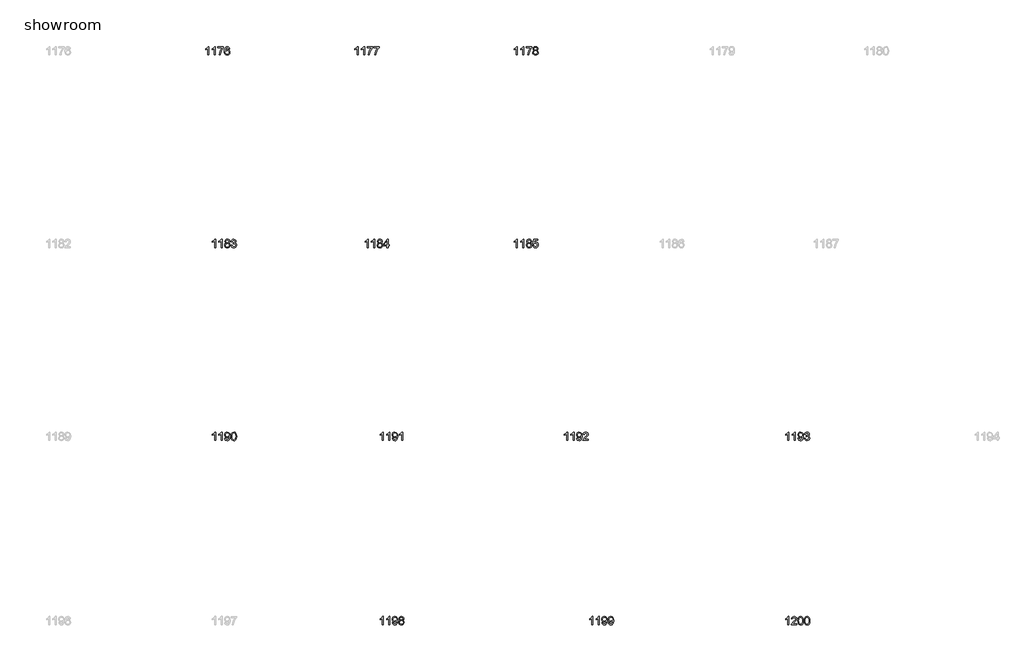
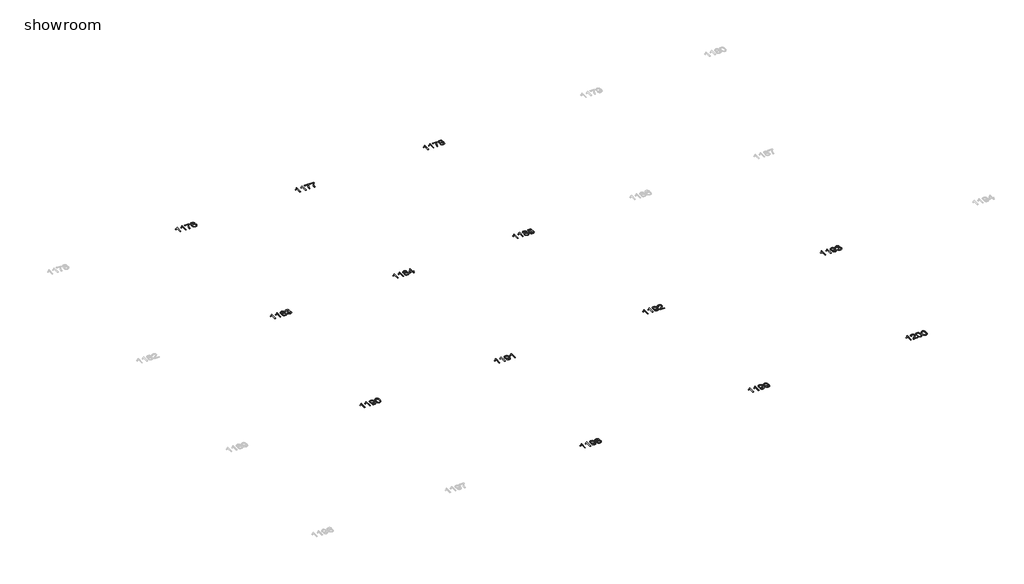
# One storey, part 2 of 5: 13 proxies.
"""IFC4 building model written with IfcOpenShell, lengths in millimetres."""

from ifc_helpers import new_model, si_unit, origin, origin_with_axes, place, context, project, spatial, polyline, outline, extrude, element, save

model = new_model("IFC4")

# Units and contexts
model_context = context("Model", 3, world=origin())
ifc_project = project(units=[si_unit("LENGTHUNIT", "METRE", prefix="MILLI")], contexts=[model_context])

# Site, building, storey
site = spatial("IfcSite", under=ifc_project)
building = spatial("IfcBuilding", under=site)
storey = spatial("IfcBuildingStorey", under=building, Name="showroom", Elevation=0.0)

# Proxies
placement = place(None, origin())
element("IfcBuildingElementProxy", 1, Name="100mm Arial", ObjectType="100mm Arial", at=placement, inside=storey, context=model_context, shape_type="SweptSolid", body=[
    extrude(outline(polyline([(190.3304099, -744.8979193), (177.7733711, -744.8979193), (177.7733711, -666.6126308), (165.8785199, -675.0861794), (152.6592936, -681.4260124), (152.6592936, -669.5556867), (171.0656561, -657.8079883), (182.237006, -644.4416092), (190.3304099, -644.4416092), (190.3304099, -744.8979193)])), origin_with_axes(), (0.0, 0.0, 1.0), 2.0),
    extrude(outline(polyline([(267.2422723, -744.8979193), (254.6852336, -744.8979193), (254.6852336, -666.6126308), (242.7903824, -675.0861794), (229.571156, -681.4260124), (229.571156, -669.5556867), (247.9775185, -657.8079883), (259.1488684, -644.4416092), (267.2422723, -644.4416092), (267.2422723, -744.8979193)])), origin_with_axes(), (0.0, 0.0, 1.0), 2.0),
    extrude(outline(polyline([(297.0652394, -658.5682778), (297.0652394, -646.011239), (362.9896929, -646.011239), (362.9896929, -656.1647821), (344.2890249, -683.1795833), (329.9784152, -717.6010753), (325.3185766, -744.8979193), (312.7615379, -744.8979193), (317.7524703, -716.5710057), (331.4499432, -684.5530094), (350.4326542, -658.5682778), (297.0652394, -658.5682778)])), origin_with_axes(), (0.0, 0.0, 1.0), 2.0),
    extrude(outline(polyline([(438.3319256, -671.1253166), (425.7748868, -672.6949464), (421.0169463, -662.2225723), (408.4353821, -656.9986479), (397.1046166, -660.0398058), (388.5329661, -671.4564104), (384.9645108, -693.8358984), (396.0377588, -683.8172454), (409.7597573, -680.5430956), (421.3603028, -682.7810444), (431.096913, -689.4948909), (437.7003948, -699.7526672), (439.9015554, -712.6224056), (435.7567516, -729.9496476), (424.3524097, -742.2123808), (407.8958218, -746.4675492), (393.6495916, -743.6471205), (382.3034977, -735.1858347), (374.8814784, -720.2498257), (372.407472, -698.0052277), (375.1543243, -672.9953834), (383.3948809, -655.895002), (394.6459386, -647.3049574), (409.220197, -644.4416092), (420.2382628, -646.2135741), (429.0612993, -651.529469), (435.2417168, -659.9723607), (438.3319256, -671.1253166)]), holes=[polyline([(384.9645108, -712.4262019), (387.8707786, -723.3032462), (395.5963005, -731.2004464), (406.9148032, -733.9105104), (415.2013451, -732.5064275), (421.7159221, -728.2941786), (425.937368, -721.6723027), (427.3445166, -713.0393385), (425.9557621, -704.7527966), (421.7894985, -698.4344233), (415.1645569, -694.4337066), (406.3997684, -693.1001344), (391.206242, -698.4344233), (386.5249436, -704.5995124), (384.9645108, -712.4262019)])]), origin_with_axes(), (0.0, 0.0, 1.0), 2.0),
])
element("IfcBuildingElementProxy", 2, Name="100mm Arial", ObjectType="100mm Arial", at=placement, inside=storey, context=model_context, shape_type="SweptSolid", body=[
    extrude(outline(polyline([(1970.3304099, -744.8979193), (1957.7733711, -744.8979193), (1957.7733711, -666.6126308), (1945.8785199, -675.0861794), (1932.6592936, -681.4260124), (1932.6592936, -669.5556867), (1951.0656561, -657.8079883), (1962.237006, -644.4416092), (1970.3304099, -644.4416092), (1970.3304099, -744.8979193)])), origin_with_axes(), (0.0, 0.0, 1.0), 2.0),
    extrude(outline(polyline([(2047.2422723, -744.8979193), (2034.6852336, -744.8979193), (2034.6852336, -666.6126308), (2022.7903824, -675.0861794), (2009.571156, -681.4260124), (2009.571156, -669.5556867), (2027.9775185, -657.8079883), (2039.1488684, -644.4416092), (2047.2422723, -644.4416092), (2047.2422723, -744.8979193)])), origin_with_axes(), (0.0, 0.0, 1.0), 2.0),
    extrude(outline(polyline([(2077.0652394, -658.5682778), (2077.0652394, -646.011239), (2142.9896929, -646.011239), (2142.9896929, -656.1647821), (2124.2890249, -683.1795833), (2109.9784152, -717.6010753), (2105.3185766, -744.8979193), (2092.7615379, -744.8979193), (2097.7524703, -716.5710057), (2111.4499432, -684.5530094), (2130.4326542, -658.5682778), (2077.0652394, -658.5682778)])), origin_with_axes(), (0.0, 0.0, 1.0), 2.0),
    extrude(outline(polyline([(2153.9771019, -658.5682778), (2153.9771019, -646.011239), (2219.9015554, -646.011239), (2219.9015554, -656.1647821), (2201.2008873, -683.1795833), (2186.8902777, -717.6010753), (2182.2304391, -744.8979193), (2169.6734003, -744.8979193), (2174.6643327, -716.5710057), (2188.3618057, -684.5530094), (2207.3445166, -658.5682778), (2153.9771019, -658.5682778)])), origin_with_axes(), (0.0, 0.0, 1.0), 2.0),
])
element("IfcBuildingElementProxy", 3, Name="100mm Arial", ObjectType="100mm Arial", at=placement, inside=storey, context=model_context, shape_type="SweptSolid", body=[
    extrude(outline(polyline([(3870.3304099, -744.8979193), (3857.7733711, -744.8979193), (3857.7733711, -666.6126308), (3845.8785199, -675.0861794), (3832.6592936, -681.4260124), (3832.6592936, -669.5556867), (3851.0656561, -657.8079883), (3862.237006, -644.4416092), (3870.3304099, -644.4416092), (3870.3304099, -744.8979193)])), origin_with_axes(), (0.0, 0.0, 1.0), 2.0),
    extrude(outline(polyline([(3947.2422723, -744.8979193), (3934.6852336, -744.8979193), (3934.6852336, -666.6126308), (3922.7903824, -675.0861794), (3909.571156, -681.4260124), (3909.571156, -669.5556867), (3927.9775185, -657.8079883), (3939.1488684, -644.4416092), (3947.2422723, -644.4416092), (3947.2422723, -744.8979193)])), origin_with_axes(), (0.0, 0.0, 1.0), 2.0),
    extrude(outline(polyline([(3977.0652394, -658.5682778), (3977.0652394, -646.011239), (4042.9896929, -646.011239), (4042.9896929, -656.1647821), (4024.2890249, -683.1795833), (4009.9784152, -717.6010753), (4005.3185766, -744.8979193), (3992.7615379, -744.8979193), (3997.7524703, -716.5710057), (4011.4499432, -684.5530094), (4030.4326542, -658.5682778), (3977.0652394, -658.5682778)])), origin_with_axes(), (0.0, 0.0, 1.0), 2.0),
    extrude(outline(polyline([(4072.2730998, -689.5684673), (4060.8319697, -681.769369), (4057.1163616, -669.6292631), (4059.1397125, -659.8129452), (4065.2097655, -651.7011472), (4074.6459386, -646.2564937), (4086.7676504, -644.4416092), (4098.9629385, -646.2994133), (4108.521739, -651.8728255), (4114.7021565, -660.1133822), (4116.7622957, -669.9726196), (4113.0957385, -681.8061572), (4101.9734395, -689.5684673), (4115.3275559, -699.415442), (4119.9015554, -715.6635634), (4117.6329498, -727.6687792), (4110.8271329, -737.5893304), (4100.3179705, -744.2479945), (4086.9393286, -746.4675492), (4073.5606867, -744.2387974), (4063.0515244, -737.5525422), (4056.2457075, -727.5369548), (4053.9771019, -715.3202069), (4058.7350423, -698.6919407), (4072.2730998, -689.5684673)]), holes=[polyline([(4066.5341406, -714.8787485), (4068.631068, -724.3333158), (4076.0500216, -731.4089128), (4087.0374305, -733.9105104), (4095.5845555, -732.5953323), (4101.997965, -728.6497979), (4107.3445166, -715.271156), (4101.8262867, -701.6349967), (4095.2657245, -697.5882947), (4086.6204976, -696.2393941), (4078.1929342, -697.5699006), (4071.8439041, -701.5614203), (4066.5341406, -714.8787485)]), polyline([(4069.6734003, -669.9971451), (4074.1247725, -679.8563826), (4087.0864814, -683.6823553), (4099.790673, -679.880908), (4104.2052569, -670.5612308), (4099.6435202, -660.9104598), (4086.9393286, -656.9986479), (4074.1983489, -660.8246207), (4069.6734003, -669.9971451)])]), origin_with_axes(), (0.0, 0.0, 1.0), 2.0),
])
element("IfcBuildingElementProxy", 4, Name="100mm Arial", ObjectType="100mm Arial", at=placement, inside=storey, context=model_context, shape_type="SweptSolid", body=[
    extrude(outline(polyline([(270.3304099, -3044.8979193), (257.7733711, -3044.8979193), (257.7733711, -2966.6126308), (245.8785199, -2975.0861794), (232.6592936, -2981.4260124), (232.6592936, -2969.5556867), (251.0656561, -2957.8079883), (262.237006, -2944.4416092), (270.3304099, -2944.4416092), (270.3304099, -3044.8979193)])), origin_with_axes(), (0.0, 0.0, 1.0), 2.0),
    extrude(outline(polyline([(347.2422723, -3044.8979193), (334.6852336, -3044.8979193), (334.6852336, -2966.6126308), (322.7903824, -2975.0861794), (309.571156, -2981.4260124), (309.571156, -2969.5556867), (327.9775185, -2957.8079883), (339.1488684, -2944.4416092), (347.2422723, -2944.4416092), (347.2422723, -3044.8979193)])), origin_with_axes(), (0.0, 0.0, 1.0), 2.0),
    extrude(outline(polyline([(395.3612373, -2989.5684673), (383.9201073, -2981.769369), (380.2044991, -2969.6292631), (382.2278501, -2959.8129452), (388.297903, -2951.7011472), (397.7340762, -2946.2564937), (409.8557879, -2944.4416092), (422.0510761, -2946.2994133), (431.6098766, -2951.8728255), (437.7902941, -2960.1133822), (439.8504333, -2969.9726196), (436.183876, -2981.8061572), (425.061577, -2989.5684673), (438.4156935, -2999.415442), (442.9896929, -3015.6635634), (440.7210873, -3027.6687792), (433.9152704, -3037.5893304), (423.4061081, -3044.2479945), (410.0274662, -3046.4675492), (396.6488243, -3044.2387974), (386.139662, -3037.5525422), (379.333845, -3027.5369548), (377.0652394, -3015.3202069), (381.8231799, -2998.6919407), (395.3612373, -2989.5684673)]), holes=[polyline([(389.6222782, -3014.8787485), (391.7192056, -3024.3333158), (399.1381591, -3031.4089128), (410.125568, -3033.9105104), (418.6726931, -3032.5953323), (425.0861025, -3028.6497979), (430.4326542, -3015.271156), (424.9144242, -3001.6349967), (418.353862, -2997.5882947), (409.7086351, -2996.2393941), (401.2810717, -2997.5699006), (394.9320416, -3001.5614203), (389.6222782, -3014.8787485)]), polyline([(392.7615379, -2969.9971451), (397.21291, -2979.8563826), (410.174619, -2983.6823553), (422.8788105, -2979.880908), (427.2933945, -2970.5612308), (422.7316577, -2960.9104598), (410.0274662, -2956.9986479), (397.2864864, -2960.8246207), (392.7615379, -2969.9971451)])]), origin_with_axes(), (0.0, 0.0, 1.0), 2.0),
    extrude(outline(polyline([(453.9771019, -3018.2142119), (466.5341406, -3016.6445821), (473.4625849, -3029.8638085), (486.4242938, -3033.9105104), (495.0327325, -3032.5186902), (501.6791339, -3028.3432295), (507.3445166, -3014.5599175), (501.7281848, -3001.573683), (487.4543634, -2996.4355978), (478.649721, -2997.8090239), (480.0476726, -2985.2519852), (482.0587608, -2985.399138), (496.3080568, -2981.7938944), (501.0537345, -2977.2198949), (502.6356271, -2970.7083836), (498.0493649, -2960.8859344), (486.2280901, -2956.9986479), (474.2596625, -2960.9227226), (468.1037705, -2972.6949464), (455.5467317, -2971.1253166), (459.2439458, -2959.8497334), (465.8229021, -2951.4313671), (474.8237483, -2946.1890487), (485.7866317, -2944.4416092), (500.9311072, -2947.8874372), (511.5261086, -2957.3052163), (515.1926659, -2969.9726196), (511.7100496, -2981.5486398), (501.4093538, -2989.8627728), (515.094564, -2998.4466861), (519.9015554, -3014.7806467), (517.4980597, -3027.0188544), (510.2875726, -3037.2459738), (499.4043969, -3044.1621553), (485.9828354, -3046.4675492), (473.8427296, -3044.4993805), (463.9589667, -3038.5948745), (457.0857047, -3029.5633715), (453.9771019, -3018.2142119)])), origin_with_axes(), (0.0, 0.0, 1.0), 2.0),
])
element("IfcBuildingElementProxy", 5, Name="100mm Arial", ObjectType="100mm Arial", at=placement, inside=storey, context=model_context, shape_type="SweptSolid", body=[
    extrude(outline(polyline([(2090.3304099, -3044.8979193), (2077.7733711, -3044.8979193), (2077.7733711, -2966.6126308), (2065.8785199, -2975.0861794), (2052.6592936, -2981.4260124), (2052.6592936, -2969.5556867), (2071.0656561, -2957.8079883), (2082.237006, -2944.4416092), (2090.3304099, -2944.4416092), (2090.3304099, -3044.8979193)])), origin_with_axes(), (0.0, 0.0, 1.0), 2.0),
    extrude(outline(polyline([(2167.2422723, -3044.8979193), (2154.6852336, -3044.8979193), (2154.6852336, -2966.6126308), (2142.7903824, -2975.0861794), (2129.571156, -2981.4260124), (2129.571156, -2969.5556867), (2147.9775185, -2957.8079883), (2159.1488684, -2944.4416092), (2167.2422723, -2944.4416092), (2167.2422723, -3044.8979193)])), origin_with_axes(), (0.0, 0.0, 1.0), 2.0),
    extrude(outline(polyline([(2215.3612373, -2989.5684673), (2203.9201073, -2981.769369), (2200.2044991, -2969.6292631), (2202.2278501, -2959.8129452), (2208.297903, -2951.7011472), (2217.7340762, -2946.2564937), (2229.8557879, -2944.4416092), (2242.0510761, -2946.2994133), (2251.6098766, -2951.8728255), (2257.7902941, -2960.1133822), (2259.8504333, -2969.9726196), (2256.183876, -2981.8061572), (2245.061577, -2989.5684673), (2258.4156935, -2999.415442), (2262.9896929, -3015.6635634), (2260.7210873, -3027.6687792), (2253.9152704, -3037.5893304), (2243.4061081, -3044.2479945), (2230.0274662, -3046.4675492), (2216.6488243, -3044.2387974), (2206.139662, -3037.5525422), (2199.333845, -3027.5369548), (2197.0652394, -3015.3202069), (2201.8231799, -2998.6919407), (2215.3612373, -2989.5684673)]), holes=[polyline([(2209.6222782, -3014.8787485), (2211.7192056, -3024.3333158), (2219.1381591, -3031.4089128), (2230.125568, -3033.9105104), (2238.6726931, -3032.5953323), (2245.0861025, -3028.6497979), (2250.4326542, -3015.271156), (2244.9144242, -3001.6349967), (2238.353862, -2997.5882947), (2229.7086351, -2996.2393941), (2221.2810717, -2997.5699006), (2214.9320416, -3001.5614203), (2209.6222782, -3014.8787485)]), polyline([(2212.7615379, -2969.9971451), (2217.21291, -2979.8563826), (2230.174619, -2983.6823553), (2242.8788105, -2979.880908), (2247.2933945, -2970.5612308), (2242.7316577, -2960.9104598), (2230.0274662, -2956.9986479), (2217.2864864, -2960.8246207), (2212.7615379, -2969.9971451)])]), origin_with_axes(), (0.0, 0.0, 1.0), 2.0),
    extrude(outline(polyline([(2314.7874779, -3044.8979193), (2314.7874779, -3021.3534716), (2269.2682123, -3021.3534716), (2269.2682123, -3008.7964329), (2317.9267376, -2946.011239), (2327.3445166, -2946.011239), (2327.3445166, -3008.7964329), (2339.9015554, -3008.7964329), (2339.9015554, -3021.3534716), (2327.3445166, -3021.3534716), (2327.3445166, -3044.8979193), (2314.7874779, -3044.8979193)]), holes=[polyline([(2314.7874779, -3008.7964329), (2314.7874779, -2969.9971451), (2284.7192561, -3008.7964329), (2314.7874779, -3008.7964329)])]), origin_with_axes(), (0.0, 0.0, 1.0), 2.0),
])
element("IfcBuildingElementProxy", 6, Name="100mm Arial", ObjectType="100mm Arial", at=placement, inside=storey, context=model_context, shape_type="SweptSolid", body=[
    extrude(outline(polyline([(3870.3304099, -3044.8979193), (3857.7733711, -3044.8979193), (3857.7733711, -2966.6126308), (3845.8785199, -2975.0861794), (3832.6592936, -2981.4260124), (3832.6592936, -2969.5556867), (3851.0656561, -2957.8079883), (3862.237006, -2944.4416092), (3870.3304099, -2944.4416092), (3870.3304099, -3044.8979193)])), origin_with_axes(), (0.0, 0.0, 1.0), 2.0),
    extrude(outline(polyline([(3947.2422723, -3044.8979193), (3934.6852336, -3044.8979193), (3934.6852336, -2966.6126308), (3922.7903824, -2975.0861794), (3909.571156, -2981.4260124), (3909.571156, -2969.5556867), (3927.9775185, -2957.8079883), (3939.1488684, -2944.4416092), (3947.2422723, -2944.4416092), (3947.2422723, -3044.8979193)])), origin_with_axes(), (0.0, 0.0, 1.0), 2.0),
    extrude(outline(polyline([(3995.3612373, -2989.5684673), (3983.9201073, -2981.769369), (3980.2044991, -2969.6292631), (3982.2278501, -2959.8129452), (3988.297903, -2951.7011472), (3997.7340762, -2946.2564937), (4009.8557879, -2944.4416092), (4022.0510761, -2946.2994133), (4031.6098766, -2951.8728255), (4037.7902941, -2960.1133822), (4039.8504333, -2969.9726196), (4036.183876, -2981.8061572), (4025.061577, -2989.5684673), (4038.4156935, -2999.415442), (4042.9896929, -3015.6635634), (4040.7210873, -3027.6687792), (4033.9152704, -3037.5893304), (4023.4061081, -3044.2479945), (4010.0274662, -3046.4675492), (3996.6488243, -3044.2387974), (3986.139662, -3037.5525422), (3979.333845, -3027.5369548), (3977.0652394, -3015.3202069), (3981.8231799, -2998.6919407), (3995.3612373, -2989.5684673)]), holes=[polyline([(3989.6222782, -3014.8787485), (3991.7192056, -3024.3333158), (3999.1381591, -3031.4089128), (4010.125568, -3033.9105104), (4018.6726931, -3032.5953323), (4025.0861025, -3028.6497979), (4030.4326542, -3015.271156), (4024.9144242, -3001.6349967), (4018.353862, -2997.5882947), (4009.7086351, -2996.2393941), (4001.2810717, -2997.5699006), (3994.9320416, -3001.5614203), (3989.6222782, -3014.8787485)]), polyline([(3992.7615379, -2969.9971451), (3997.21291, -2979.8563826), (4010.174619, -2983.6823553), (4022.8788105, -2979.880908), (4027.2933945, -2970.5612308), (4022.7316577, -2960.9104598), (4010.0274662, -2956.9986479), (3997.2864864, -2960.8246207), (3992.7615379, -2969.9971451)])]), origin_with_axes(), (0.0, 0.0, 1.0), 2.0),
    extrude(outline(polyline([(4053.9771019, -3018.2142119), (4066.5341406, -3016.6445821), (4072.861711, -3029.5817656), (4085.9828354, -3033.9105104), (4094.9836816, -3032.4052599), (4101.7281848, -3027.8895084), (4105.9404337, -3020.8844221), (4107.3445166, -3011.9111671), (4102.0838041, -2996.9996836), (4095.4772566, -2992.8977993), (4086.1790392, -2991.5305046), (4075.1548421, -2993.7132711), (4068.1037705, -2999.3786538), (4055.5467317, -2997.8090239), (4066.5341406, -2946.011239), (4115.1926659, -2946.011239), (4115.1926659, -2958.5682778), (4076.6876837, -2958.5682778), (4071.3166066, -2986.2330038), (4080.2867959, -2980.7883503), (4089.6861809, -2978.9734658), (4101.4185508, -2981.2236773), (4111.1582267, -2987.9743119), (4117.7157232, -2998.2627451), (4119.9015554, -3011.1263522), (4117.9333867, -3023.6833909), (4112.0288807, -3034.4255452), (4100.7226407, -3043.4570482), (4085.9337845, -3046.4675492), (4073.6005406, -3044.533103), (4063.7750257, -3038.7297645), (4057.0397195, -3029.7319841), (4053.9771019, -3018.2142119)])), origin_with_axes(), (0.0, 0.0, 1.0), 2.0),
])
element("IfcBuildingElementProxy", 7, Name="100mm Arial", ObjectType="100mm Arial", at=placement, inside=storey, context=model_context, shape_type="SweptSolid", body=[
    extrude(outline(polyline([(270.3304099, -5344.8979193), (257.7733711, -5344.8979193), (257.7733711, -5266.6126308), (245.8785199, -5275.0861794), (232.6592936, -5281.4260124), (232.6592936, -5269.5556867), (251.0656561, -5257.8079883), (262.237006, -5244.4416092), (270.3304099, -5244.4416092), (270.3304099, -5344.8979193)])), origin_with_axes(), (0.0, 0.0, 1.0), 2.0),
    extrude(outline(polyline([(347.2422723, -5344.8979193), (334.6852336, -5344.8979193), (334.6852336, -5266.6126308), (322.7903824, -5275.0861794), (309.571156, -5281.4260124), (309.571156, -5269.5556867), (327.9775185, -5257.8079883), (339.1488684, -5244.4416092), (347.2422723, -5244.4416092), (347.2422723, -5344.8979193)])), origin_with_axes(), (0.0, 0.0, 1.0), 2.0),
    extrude(outline(polyline([(378.6348693, -5319.7838418), (391.191908, -5318.2142119), (396.8327653, -5330.1949023), (407.5258686, -5333.9105104), (417.6916744, -5331.5192774), (424.5833305, -5325.1303935), (428.6913461, -5314.2165609), (430.5062306, -5299.6484339), (430.4326542, -5297.1958873), (420.3894757, -5306.7117682), (406.6184264, -5310.3660627), (395.1680993, -5308.1342453), (385.6368899, -5301.438793), (379.208152, -5291.0951775), (377.0652394, -5277.9188707), (379.3123853, -5264.3072369), (386.0538228, -5253.6386591), (396.1797747, -5246.7408716), (408.5804637, -5244.4416092), (426.4717914, -5249.690059), (438.7835755, -5264.6505934), (442.9896929, -5292.7567779), (438.7958382, -5323.2541953), (433.5811109, -5333.2452571), (426.3246386, -5340.5323863), (417.3391208, -5344.9837585), (406.9372574, -5346.4675492), (396.2012345, -5344.717044), (387.6357154, -5339.4655285), (381.6453702, -5331.0440965), (378.6348693, -5319.7838418)]), holes=[polyline([(430.4326542, -5277.6245651), (429.0776222, -5269.1142283), (425.0125261, -5262.5659288), (418.7033499, -5258.3904682), (410.6160774, -5256.9986479), (402.2283679, -5258.4977671), (395.5083901, -5262.9951245), (391.0938062, -5269.8775835), (389.6222782, -5278.5320074), (391.0140984, -5286.2912518), (395.189559, -5292.4502095), (401.7439899, -5296.4693203), (410.2727208, -5297.8090239), (424.7550087, -5292.4502095), (429.0132428, -5286.0643912), (430.4326542, -5277.6245651)])]), origin_with_axes(), (0.0, 0.0, 1.0), 2.0),
    extrude(outline(polyline([(453.9771019, -5295.4791046), (457.6681846, -5266.5758426), (468.631068, -5249.9107882), (486.9393286, -5244.4416092), (501.6055575, -5247.6789707), (511.7345751, -5257.0109107), (517.620687, -5271.8733433), (519.9015554, -5295.4791046), (516.2472609, -5324.2597394), (505.3211657, -5340.961582), (497.089806, -5345.0910574), (486.9393286, -5346.4675492), (473.8917805, -5344.0763162), (463.9834921, -5336.9026173), (456.4786994, -5319.9126005), (453.9771019, -5295.4791046)]), holes=[polyline([(466.5341406, -5295.4545792), (468.0056686, -5315.2067766), (472.4202526, -5326.6387096), (478.9930775, -5332.0925602), (486.9393286, -5333.9105104), (494.8855797, -5332.0864288), (501.4584047, -5326.6141842), (505.8729887, -5315.1761198), (507.3445166, -5295.4545792), (505.9220396, -5276.1469058), (501.6546084, -5264.626068), (495.0940462, -5258.905503), (486.7921758, -5256.9986479), (478.9317639, -5258.6786424), (472.6164563, -5263.7186257), (468.0547195, -5275.9568334), (466.5341406, -5295.4545792)])]), origin_with_axes(), (0.0, 0.0, 1.0), 2.0),
])
element("IfcBuildingElementProxy", 8, Name="100mm Arial", ObjectType="100mm Arial", at=placement, inside=storey, context=model_context, shape_type="SweptSolid", body=[
    extrude(outline(polyline([(2270.3304099, -5344.8979193), (2257.7733711, -5344.8979193), (2257.7733711, -5266.6126308), (2245.8785199, -5275.0861794), (2232.6592936, -5281.4260124), (2232.6592936, -5269.5556867), (2251.0656561, -5257.8079883), (2262.237006, -5244.4416092), (2270.3304099, -5244.4416092), (2270.3304099, -5344.8979193)])), origin_with_axes(), (0.0, 0.0, 1.0), 2.0),
    extrude(outline(polyline([(2347.2422723, -5344.8979193), (2334.6852336, -5344.8979193), (2334.6852336, -5266.6126308), (2322.7903824, -5275.0861794), (2309.571156, -5281.4260124), (2309.571156, -5269.5556867), (2327.9775185, -5257.8079883), (2339.1488684, -5244.4416092), (2347.2422723, -5244.4416092), (2347.2422723, -5344.8979193)])), origin_with_axes(), (0.0, 0.0, 1.0), 2.0),
    extrude(outline(polyline([(2378.6348693, -5319.7838418), (2391.191908, -5318.2142119), (2396.8327653, -5330.1949023), (2407.5258686, -5333.9105104), (2417.6916744, -5331.5192774), (2424.5833305, -5325.1303935), (2428.6913461, -5314.2165609), (2430.5062306, -5299.6484339), (2430.4326542, -5297.1958873), (2420.3894757, -5306.7117682), (2406.6184264, -5310.3660627), (2395.1680993, -5308.1342453), (2385.6368899, -5301.438793), (2379.208152, -5291.0951775), (2377.0652394, -5277.9188707), (2379.3123853, -5264.3072369), (2386.0538228, -5253.6386591), (2396.1797747, -5246.7408716), (2408.5804637, -5244.4416092), (2426.4717914, -5249.690059), (2438.7835755, -5264.6505934), (2442.9896929, -5292.7567779), (2438.7958382, -5323.2541953), (2433.5811109, -5333.2452571), (2426.3246386, -5340.5323863), (2417.3391208, -5344.9837585), (2406.9372574, -5346.4675492), (2396.2012345, -5344.717044), (2387.6357154, -5339.4655285), (2381.6453702, -5331.0440965), (2378.6348693, -5319.7838418)]), holes=[polyline([(2430.4326542, -5277.6245651), (2429.0776222, -5269.1142283), (2425.0125261, -5262.5659288), (2418.7033499, -5258.3904682), (2410.6160774, -5256.9986479), (2402.2283679, -5258.4977671), (2395.5083901, -5262.9951245), (2391.0938062, -5269.8775835), (2389.6222782, -5278.5320074), (2391.0140984, -5286.2912518), (2395.189559, -5292.4502095), (2401.7439899, -5296.4693203), (2410.2727208, -5297.8090239), (2424.7550087, -5292.4502095), (2429.0132428, -5286.0643912), (2430.4326542, -5277.6245651)])]), origin_with_axes(), (0.0, 0.0, 1.0), 2.0),
    extrude(outline(polyline([(2501.0659973, -5344.8979193), (2488.5089585, -5344.8979193), (2488.5089585, -5266.6126308), (2476.6141073, -5275.0861794), (2463.3948809, -5281.4260124), (2463.3948809, -5269.5556867), (2481.8012434, -5257.8079883), (2492.9725934, -5244.4416092), (2501.0659973, -5244.4416092), (2501.0659973, -5344.8979193)])), origin_with_axes(), (0.0, 0.0, 1.0), 2.0),
])
element("IfcBuildingElementProxy", 9, Name="100mm Arial", ObjectType="100mm Arial", at=placement, inside=storey, context=model_context, shape_type="SweptSolid", body=[
    extrude(outline(polyline([(4470.3304099, -5344.8979193), (4457.7733711, -5344.8979193), (4457.7733711, -5266.6126308), (4445.8785199, -5275.0861794), (4432.6592936, -5281.4260124), (4432.6592936, -5269.5556867), (4451.0656561, -5257.8079883), (4462.237006, -5244.4416092), (4470.3304099, -5244.4416092), (4470.3304099, -5344.8979193)])), origin_with_axes(), (0.0, 0.0, 1.0), 2.0),
    extrude(outline(polyline([(4547.2422723, -5344.8979193), (4534.6852336, -5344.8979193), (4534.6852336, -5266.6126308), (4522.7903824, -5275.0861794), (4509.571156, -5281.4260124), (4509.571156, -5269.5556867), (4527.9775185, -5257.8079883), (4539.1488684, -5244.4416092), (4547.2422723, -5244.4416092), (4547.2422723, -5344.8979193)])), origin_with_axes(), (0.0, 0.0, 1.0), 2.0),
    extrude(outline(polyline([(4578.6348693, -5319.7838418), (4591.191908, -5318.2142119), (4596.8327653, -5330.1949023), (4607.5258686, -5333.9105104), (4617.6916744, -5331.5192774), (4624.5833305, -5325.1303935), (4628.6913461, -5314.2165609), (4630.5062306, -5299.6484339), (4630.4326542, -5297.1958873), (4620.3894757, -5306.7117682), (4606.6184264, -5310.3660627), (4595.1680993, -5308.1342453), (4585.6368899, -5301.438793), (4579.208152, -5291.0951775), (4577.0652394, -5277.9188707), (4579.3123853, -5264.3072369), (4586.0538228, -5253.6386591), (4596.1797747, -5246.7408716), (4608.5804637, -5244.4416092), (4626.4717914, -5249.690059), (4638.7835755, -5264.6505934), (4642.9896929, -5292.7567779), (4638.7958382, -5323.2541953), (4633.5811109, -5333.2452571), (4626.3246386, -5340.5323863), (4617.3391208, -5344.9837585), (4606.9372574, -5346.4675492), (4596.2012345, -5344.717044), (4587.6357154, -5339.4655285), (4581.6453702, -5331.0440965), (4578.6348693, -5319.7838418)]), holes=[polyline([(4630.4326542, -5277.6245651), (4629.0776222, -5269.1142283), (4625.0125261, -5262.5659288), (4618.7033499, -5258.3904682), (4610.6160774, -5256.9986479), (4602.2283679, -5258.4977671), (4595.5083901, -5262.9951245), (4591.0938062, -5269.8775835), (4589.6222782, -5278.5320074), (4591.0140984, -5286.2912518), (4595.189559, -5292.4502095), (4601.7439899, -5296.4693203), (4610.2727208, -5297.8090239), (4624.7550087, -5292.4502095), (4629.0132428, -5286.0643912), (4630.4326542, -5277.6245651)])]), origin_with_axes(), (0.0, 0.0, 1.0), 2.0),
    extrude(outline(polyline([(4718.3319256, -5332.3408806), (4718.3319256, -5344.8979193), (4652.407472, -5344.8979193), (4653.7563727, -5336.2404297), (4661.3837927, -5322.9108388), (4677.1046166, -5308.3549745), (4698.7851289, -5287.4347517), (4704.2052569, -5273.2099812), (4699.0916972, -5261.6952748), (4685.7375808, -5256.9986479), (4671.8193786, -5261.5849102), (4666.5341406, -5274.2645763), (4653.9771019, -5272.6949464), (4657.0213254, -5260.5487092), (4663.6033474, -5251.6766218), (4673.3798114, -5246.2503623), (4686.0073609, -5244.4416092), (4698.7268809, -5246.4526974), (4708.4849508, -5252.4859621), (4714.6929595, -5261.499071), (4716.7622957, -5272.4496917), (4714.5304783, -5284.3568057), (4707.1115247, -5296.6685898), (4689.1220951, -5313.8732044), (4674.6765955, -5325.9519966), (4669.0112127, -5332.3408806), (4718.3319256, -5332.3408806)])), origin_with_axes(), (0.0, 0.0, 1.0), 2.0),
])
element("IfcBuildingElementProxy", 10, Name="100mm Arial", ObjectType="100mm Arial", at=placement, inside=storey, context=model_context, shape_type="SweptSolid", body=[
    extrude(outline(polyline([(7110.3304099, -5344.8979193), (7097.7733711, -5344.8979193), (7097.7733711, -5266.6126308), (7085.8785199, -5275.0861794), (7072.6592936, -5281.4260124), (7072.6592936, -5269.5556867), (7091.0656561, -5257.8079883), (7102.237006, -5244.4416092), (7110.3304099, -5244.4416092), (7110.3304099, -5344.8979193)])), origin_with_axes(), (0.0, 0.0, 1.0), 2.0),
    extrude(outline(polyline([(7187.2422723, -5344.8979193), (7174.6852336, -5344.8979193), (7174.6852336, -5266.6126308), (7162.7903824, -5275.0861794), (7149.571156, -5281.4260124), (7149.571156, -5269.5556867), (7167.9775185, -5257.8079883), (7179.1488684, -5244.4416092), (7187.2422723, -5244.4416092), (7187.2422723, -5344.8979193)])), origin_with_axes(), (0.0, 0.0, 1.0), 2.0),
    extrude(outline(polyline([(7218.6348693, -5319.7838418), (7231.191908, -5318.2142119), (7236.8327653, -5330.1949023), (7247.5258686, -5333.9105104), (7257.6916744, -5331.5192774), (7264.5833305, -5325.1303935), (7268.6913461, -5314.2165609), (7270.5062306, -5299.6484339), (7270.4326542, -5297.1958873), (7260.3894757, -5306.7117682), (7246.6184264, -5310.3660627), (7235.1680993, -5308.1342453), (7225.6368899, -5301.438793), (7219.208152, -5291.0951775), (7217.0652394, -5277.9188707), (7219.3123853, -5264.3072369), (7226.0538228, -5253.6386591), (7236.1797747, -5246.7408716), (7248.5804637, -5244.4416092), (7266.4717914, -5249.690059), (7278.7835755, -5264.6505934), (7282.9896929, -5292.7567779), (7278.7958382, -5323.2541953), (7273.5811109, -5333.2452571), (7266.3246386, -5340.5323863), (7257.3391208, -5344.9837585), (7246.9372574, -5346.4675492), (7236.2012345, -5344.717044), (7227.6357154, -5339.4655285), (7221.6453702, -5331.0440965), (7218.6348693, -5319.7838418)]), holes=[polyline([(7270.4326542, -5277.6245651), (7269.0776222, -5269.1142283), (7265.0125261, -5262.5659288), (7258.7033499, -5258.3904682), (7250.6160774, -5256.9986479), (7242.2283679, -5258.4977671), (7235.5083901, -5262.9951245), (7231.0938062, -5269.8775835), (7229.6222782, -5278.5320074), (7231.0140984, -5286.2912518), (7235.189559, -5292.4502095), (7241.7439899, -5296.4693203), (7250.2727208, -5297.8090239), (7264.7550087, -5292.4502095), (7269.0132428, -5286.0643912), (7270.4326542, -5277.6245651)])]), origin_with_axes(), (0.0, 0.0, 1.0), 2.0),
    extrude(outline(polyline([(7293.9771019, -5318.2142119), (7306.5341406, -5316.6445821), (7313.4625849, -5329.8638085), (7326.4242938, -5333.9105104), (7335.0327325, -5332.5186902), (7341.6791339, -5328.3432295), (7347.3445166, -5314.5599175), (7341.7281848, -5301.573683), (7327.4543634, -5296.4355978), (7318.649721, -5297.8090239), (7320.0476726, -5285.2519852), (7322.0587608, -5285.399138), (7336.3080568, -5281.7938944), (7341.0537345, -5277.2198949), (7342.6356271, -5270.7083836), (7338.0493649, -5260.8859344), (7326.2280901, -5256.9986479), (7314.2596625, -5260.9227226), (7308.1037705, -5272.6949464), (7295.5467317, -5271.1253166), (7299.2439458, -5259.8497334), (7305.8229021, -5251.4313671), (7314.8237483, -5246.1890487), (7325.7866317, -5244.4416092), (7340.9311072, -5247.8874372), (7351.5261086, -5257.3052163), (7355.1926659, -5269.9726196), (7351.7100496, -5281.5486398), (7341.4093538, -5289.8627728), (7355.094564, -5298.4466861), (7359.9015554, -5314.7806467), (7357.4980597, -5327.0188544), (7350.2875726, -5337.2459738), (7339.4043969, -5344.1621553), (7325.9828354, -5346.4675492), (7313.8427296, -5344.4993805), (7303.9589667, -5338.5948745), (7297.0857047, -5329.5633715), (7293.9771019, -5318.2142119)])), origin_with_axes(), (0.0, 0.0, 1.0), 2.0),
])
element("IfcBuildingElementProxy", 11, Name="100mm Arial", ObjectType="100mm Arial", at=placement, inside=storey, context=model_context, shape_type="SweptSolid", body=[
    extrude(outline(polyline([(2270.3304099, -7544.8979193), (2257.7733711, -7544.8979193), (2257.7733711, -7466.6126308), (2245.8785199, -7475.0861794), (2232.6592936, -7481.4260124), (2232.6592936, -7469.5556867), (2251.0656561, -7457.8079883), (2262.237006, -7444.4416092), (2270.3304099, -7444.4416092), (2270.3304099, -7544.8979193)])), origin_with_axes(), (0.0, 0.0, 1.0), 2.0),
    extrude(outline(polyline([(2347.2422723, -7544.8979193), (2334.6852336, -7544.8979193), (2334.6852336, -7466.6126308), (2322.7903824, -7475.0861794), (2309.571156, -7481.4260124), (2309.571156, -7469.5556867), (2327.9775185, -7457.8079883), (2339.1488684, -7444.4416092), (2347.2422723, -7444.4416092), (2347.2422723, -7544.8979193)])), origin_with_axes(), (0.0, 0.0, 1.0), 2.0),
    extrude(outline(polyline([(2378.6348693, -7519.7838418), (2391.191908, -7518.2142119), (2396.8327653, -7530.1949023), (2407.5258686, -7533.9105104), (2417.6916744, -7531.5192774), (2424.5833305, -7525.1303935), (2428.6913461, -7514.2165609), (2430.5062306, -7499.6484339), (2430.4326542, -7497.1958873), (2420.3894757, -7506.7117682), (2406.6184264, -7510.3660627), (2395.1680993, -7508.1342453), (2385.6368899, -7501.438793), (2379.208152, -7491.0951775), (2377.0652394, -7477.9188707), (2379.3123853, -7464.3072369), (2386.0538228, -7453.6386591), (2396.1797747, -7446.7408716), (2408.5804637, -7444.4416092), (2426.4717914, -7449.690059), (2438.7835755, -7464.6505934), (2442.9896929, -7492.7567779), (2438.7958382, -7523.2541953), (2433.5811109, -7533.2452571), (2426.3246386, -7540.5323863), (2417.3391208, -7544.9837585), (2406.9372574, -7546.4675492), (2396.2012345, -7544.717044), (2387.6357154, -7539.4655285), (2381.6453702, -7531.0440965), (2378.6348693, -7519.7838418)]), holes=[polyline([(2430.4326542, -7477.6245651), (2429.0776222, -7469.1142283), (2425.0125261, -7462.5659288), (2418.7033499, -7458.3904682), (2410.6160774, -7456.9986479), (2402.2283679, -7458.4977671), (2395.5083901, -7462.9951245), (2391.0938062, -7469.8775835), (2389.6222782, -7478.5320074), (2391.0140984, -7486.2912518), (2395.189559, -7492.4502095), (2401.7439899, -7496.4693203), (2410.2727208, -7497.8090239), (2424.7550087, -7492.4502095), (2429.0132428, -7486.0643912), (2430.4326542, -7477.6245651)])]), origin_with_axes(), (0.0, 0.0, 1.0), 2.0),
    extrude(outline(polyline([(2472.2730998, -7489.5684673), (2460.8319697, -7481.769369), (2457.1163616, -7469.6292631), (2459.1397125, -7459.8129452), (2465.2097655, -7451.7011472), (2474.6459386, -7446.2564937), (2486.7676504, -7444.4416092), (2498.9629385, -7446.2994133), (2508.521739, -7451.8728255), (2514.7021565, -7460.1133822), (2516.7622957, -7469.9726196), (2513.0957385, -7481.8061572), (2501.9734395, -7489.5684673), (2515.3275559, -7499.415442), (2519.9015554, -7515.6635634), (2517.6329498, -7527.6687792), (2510.8271329, -7537.5893304), (2500.3179705, -7544.2479945), (2486.9393286, -7546.4675492), (2473.5606867, -7544.2387974), (2463.0515244, -7537.5525422), (2456.2457075, -7527.5369548), (2453.9771019, -7515.3202069), (2458.7350423, -7498.6919407), (2472.2730998, -7489.5684673)]), holes=[polyline([(2466.5341406, -7514.8787485), (2468.631068, -7524.3333158), (2476.0500216, -7531.4089128), (2487.0374305, -7533.9105104), (2495.5845555, -7532.5953323), (2501.997965, -7528.6497979), (2507.3445166, -7515.271156), (2501.8262867, -7501.6349967), (2495.2657245, -7497.5882947), (2486.6204976, -7496.2393941), (2478.1929342, -7497.5699006), (2471.8439041, -7501.5614203), (2466.5341406, -7514.8787485)]), polyline([(2469.6734003, -7469.9971451), (2474.1247725, -7479.8563826), (2487.0864814, -7483.6823553), (2499.790673, -7479.880908), (2504.2052569, -7470.5612308), (2499.6435202, -7460.9104598), (2486.9393286, -7456.9986479), (2474.1983489, -7460.8246207), (2469.6734003, -7469.9971451)])]), origin_with_axes(), (0.0, 0.0, 1.0), 2.0),
])
element("IfcBuildingElementProxy", 12, Name="100mm Arial", ObjectType="100mm Arial", at=placement, inside=storey, context=model_context, shape_type="SweptSolid", body=[
    extrude(outline(polyline([(4770.3304099, -7544.8979193), (4757.7733711, -7544.8979193), (4757.7733711, -7466.6126308), (4745.8785199, -7475.0861794), (4732.6592936, -7481.4260124), (4732.6592936, -7469.5556867), (4751.0656561, -7457.8079883), (4762.237006, -7444.4416092), (4770.3304099, -7444.4416092), (4770.3304099, -7544.8979193)])), origin_with_axes(), (0.0, 0.0, 1.0), 2.0),
    extrude(outline(polyline([(4847.2422723, -7544.8979193), (4834.6852336, -7544.8979193), (4834.6852336, -7466.6126308), (4822.7903824, -7475.0861794), (4809.571156, -7481.4260124), (4809.571156, -7469.5556867), (4827.9775185, -7457.8079883), (4839.1488684, -7444.4416092), (4847.2422723, -7444.4416092), (4847.2422723, -7544.8979193)])), origin_with_axes(), (0.0, 0.0, 1.0), 2.0),
    extrude(outline(polyline([(4878.6348693, -7519.7838418), (4891.191908, -7518.2142119), (4896.8327653, -7530.1949023), (4907.5258686, -7533.9105104), (4917.6916744, -7531.5192774), (4924.5833305, -7525.1303935), (4928.6913461, -7514.2165609), (4930.5062306, -7499.6484339), (4930.4326542, -7497.1958873), (4920.3894757, -7506.7117682), (4906.6184264, -7510.3660627), (4895.1680993, -7508.1342453), (4885.6368899, -7501.438793), (4879.208152, -7491.0951775), (4877.0652394, -7477.9188707), (4879.3123853, -7464.3072369), (4886.0538228, -7453.6386591), (4896.1797747, -7446.7408716), (4908.5804637, -7444.4416092), (4926.4717914, -7449.690059), (4938.7835755, -7464.6505934), (4942.9896929, -7492.7567779), (4938.7958382, -7523.2541953), (4933.5811109, -7533.2452571), (4926.3246386, -7540.5323863), (4917.3391208, -7544.9837585), (4906.9372574, -7546.4675492), (4896.2012345, -7544.717044), (4887.6357154, -7539.4655285), (4881.6453702, -7531.0440965), (4878.6348693, -7519.7838418)]), holes=[polyline([(4930.4326542, -7477.6245651), (4929.0776222, -7469.1142283), (4925.0125261, -7462.5659288), (4918.7033499, -7458.3904682), (4910.6160774, -7456.9986479), (4902.2283679, -7458.4977671), (4895.5083901, -7462.9951245), (4891.0938062, -7469.8775835), (4889.6222782, -7478.5320074), (4891.0140984, -7486.2912518), (4895.189559, -7492.4502095), (4901.7439899, -7496.4693203), (4910.2727208, -7497.8090239), (4924.7550087, -7492.4502095), (4929.0132428, -7486.0643912), (4930.4326542, -7477.6245651)])]), origin_with_axes(), (0.0, 0.0, 1.0), 2.0),
    extrude(outline(polyline([(4955.5467317, -7519.7838418), (4968.1037705, -7518.2142119), (4973.7446277, -7530.1949023), (4984.4377311, -7533.9105104), (4994.6035369, -7531.5192774), (5001.4951929, -7525.1303935), (5005.6032085, -7514.2165609), (5007.418093, -7499.6484339), (5007.3445166, -7497.1958873), (4997.3013382, -7506.7117682), (4983.5302888, -7510.3660627), (4972.0799617, -7508.1342453), (4962.5487524, -7501.438793), (4956.1200145, -7491.0951775), (4953.9771019, -7477.9188707), (4956.2242477, -7464.3072369), (4962.9656853, -7453.6386591), (4973.0916372, -7446.7408716), (4985.4923261, -7444.4416092), (5003.3836538, -7449.690059), (5015.6954379, -7464.6505934), (5019.9015554, -7492.7567779), (5015.7077007, -7523.2541953), (5010.4929734, -7533.2452571), (5003.236501, -7540.5323863), (4994.2509833, -7544.9837585), (4983.8491199, -7546.4675492), (4973.113097, -7544.717044), (4964.5475779, -7539.4655285), (4958.5572327, -7531.0440965), (4955.5467317, -7519.7838418)]), holes=[polyline([(5007.3445166, -7477.6245651), (5005.9894846, -7469.1142283), (5001.9243886, -7462.5659288), (4995.6152124, -7458.3904682), (4987.5279398, -7456.9986479), (4979.1402303, -7458.4977671), (4972.4202526, -7462.9951245), (4968.0056686, -7469.8775835), (4966.5341406, -7478.5320074), (4967.9259609, -7486.2912518), (4972.1014215, -7492.4502095), (4978.6558524, -7496.4693203), (4987.1845833, -7497.8090239), (5001.6668712, -7492.4502095), (5005.9251053, -7486.0643912), (5007.3445166, -7477.6245651)])]), origin_with_axes(), (0.0, 0.0, 1.0), 2.0),
])
element("IfcBuildingElementProxy", 13, Name="100mm Arial", ObjectType="100mm Arial", at=placement, inside=storey, context=model_context, shape_type="SweptSolid", body=[
    extrude(outline(polyline([(7110.3304099, -7544.8979193), (7097.7733711, -7544.8979193), (7097.7733711, -7466.6126308), (7085.8785199, -7475.0861794), (7072.6592936, -7481.4260124), (7072.6592936, -7469.5556867), (7091.0656561, -7457.8079883), (7102.237006, -7444.4416092), (7110.3304099, -7444.4416092), (7110.3304099, -7544.8979193)])), origin_with_axes(), (0.0, 0.0, 1.0), 2.0),
    extrude(outline(polyline([(7204.5082006, -7532.3408806), (7204.5082006, -7544.8979193), (7138.5837471, -7544.8979193), (7139.9326478, -7536.2404297), (7147.5600678, -7522.9108388), (7163.2808917, -7508.3549745), (7184.961404, -7487.4347517), (7190.381532, -7473.2099812), (7185.2679723, -7461.6952748), (7171.9138559, -7456.9986479), (7157.9956537, -7461.5849102), (7152.7104157, -7474.2645763), (7140.153377, -7472.6949464), (7143.1976005, -7460.5487092), (7149.7796225, -7451.6766218), (7159.5560865, -7446.2503623), (7172.183636, -7444.4416092), (7184.903156, -7446.4526974), (7194.6612259, -7452.4859621), (7200.8692346, -7461.499071), (7202.9385708, -7472.4496917), (7200.7067534, -7484.3568057), (7193.2877998, -7496.6685898), (7175.2983702, -7513.8732044), (7160.8528705, -7525.9519966), (7155.1874878, -7532.3408806), (7204.5082006, -7532.3408806)])), origin_with_axes(), (0.0, 0.0, 1.0), 2.0),
    extrude(outline(polyline([(7217.0652394, -7495.4791046), (7220.7563221, -7466.5758426), (7231.7192056, -7449.9107882), (7250.0274662, -7444.4416092), (7264.6936951, -7447.6789707), (7274.8227127, -7457.0109107), (7280.7088246, -7471.8733433), (7282.9896929, -7495.4791046), (7279.3353985, -7524.2597394), (7268.4093032, -7540.961582), (7260.1779436, -7545.0910574), (7250.0274662, -7546.4675492), (7236.9799181, -7544.0763162), (7227.0716297, -7536.9026173), (7219.566837, -7519.9126005), (7217.0652394, -7495.4791046)]), holes=[polyline([(7229.6222782, -7495.4545792), (7231.0938062, -7515.2067766), (7235.5083901, -7526.6387096), (7242.0812151, -7532.0925602), (7250.0274662, -7533.9105104), (7257.9737173, -7532.0864288), (7264.5465423, -7526.6141842), (7268.9611262, -7515.1761198), (7270.4326542, -7495.4545792), (7269.0101771, -7476.1469058), (7264.742746, -7464.626068), (7258.1821837, -7458.905503), (7249.8803134, -7456.9986479), (7242.0199014, -7458.6786424), (7235.7045938, -7463.7186257), (7231.1428571, -7475.9568334), (7229.6222782, -7495.4545792)])]), origin_with_axes(), (0.0, 0.0, 1.0), 2.0),
    extrude(outline(polyline([(7293.9771019, -7495.4791046), (7297.6681846, -7466.5758426), (7308.631068, -7449.9107882), (7326.9393286, -7444.4416092), (7341.6055575, -7447.6789707), (7351.7345751, -7457.0109107), (7357.620687, -7471.8733433), (7359.9015554, -7495.4791046), (7356.2472609, -7524.2597394), (7345.3211657, -7540.961582), (7337.089806, -7545.0910574), (7326.9393286, -7546.4675492), (7313.8917805, -7544.0763162), (7303.9834921, -7536.9026173), (7296.4786994, -7519.9126005), (7293.9771019, -7495.4791046)]), holes=[polyline([(7306.5341406, -7495.4545792), (7308.0056686, -7515.2067766), (7312.4202526, -7526.6387096), (7318.9930775, -7532.0925602), (7326.9393286, -7533.9105104), (7334.8855797, -7532.0864288), (7341.4584047, -7526.6141842), (7345.8729887, -7515.1761198), (7347.3445166, -7495.4545792), (7345.9220396, -7476.1469058), (7341.6546084, -7464.626068), (7335.0940462, -7458.905503), (7326.7921758, -7456.9986479), (7318.9317639, -7458.6786424), (7312.6164563, -7463.7186257), (7308.0547195, -7475.9568334), (7306.5341406, -7495.4545792)])]), origin_with_axes(), (0.0, 0.0, 1.0), 2.0),
])

save(model, "model.ifc")
